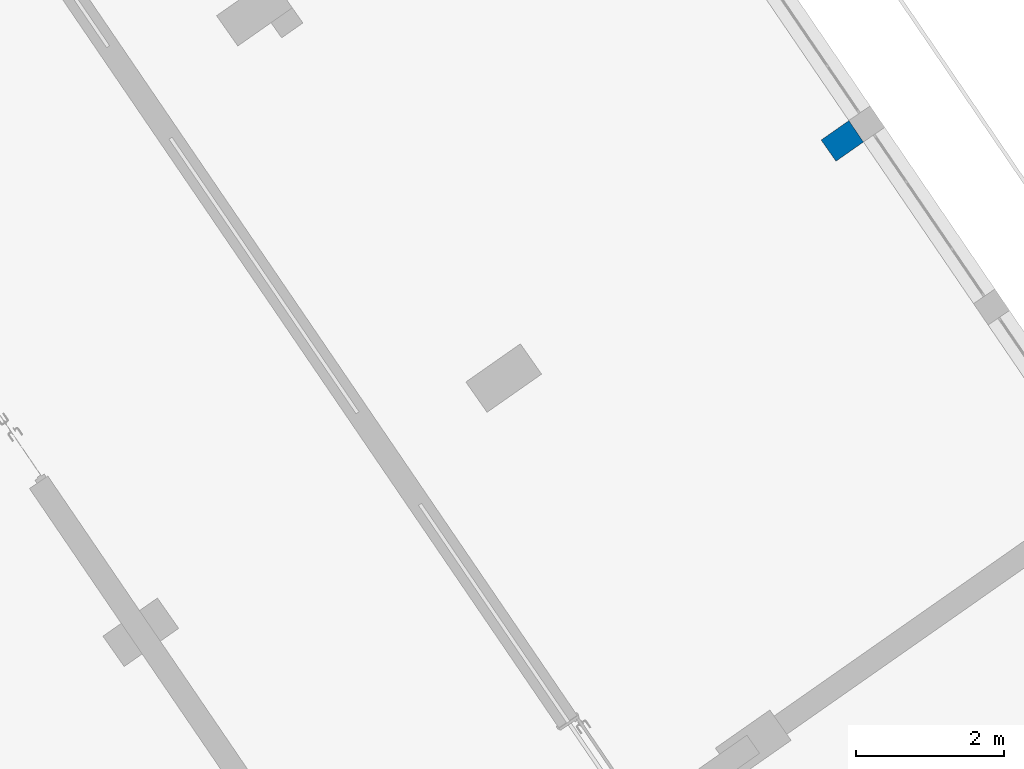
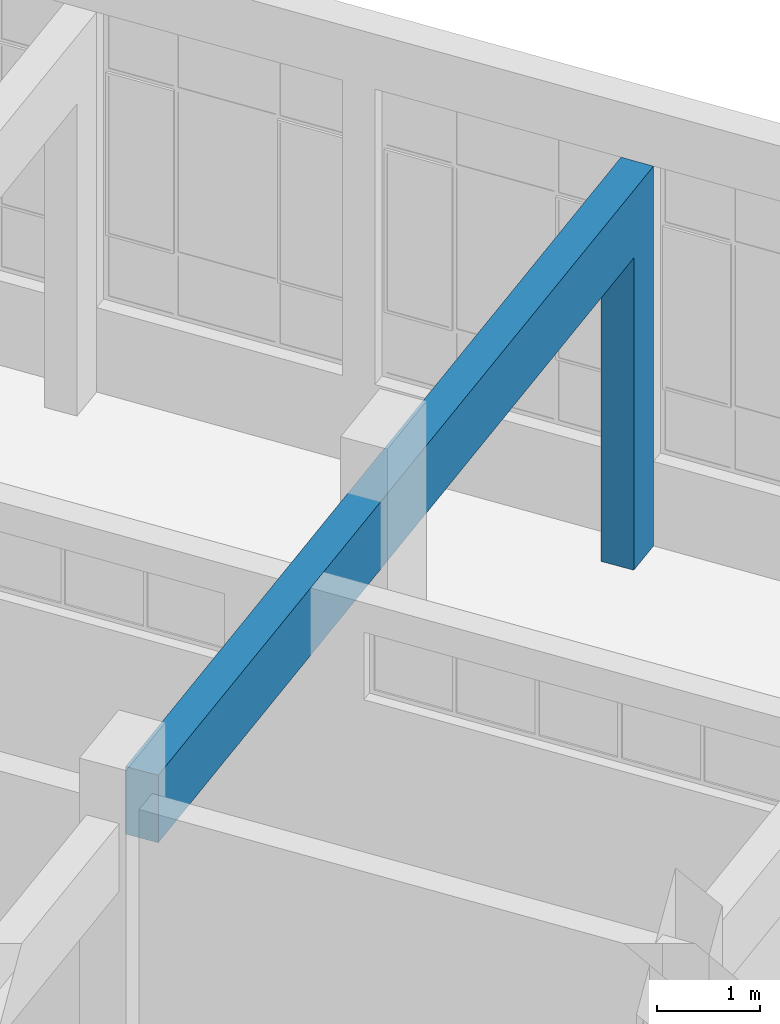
# One storey, part 147 of 157: 1 wall.
"""IFC2X3 building model written with IfcOpenShell, lengths in millimetres."""

from ifc_helpers import new_model, entity, si_unit, converted_unit, derived_unit, direction, frame, origin, place, context, subcontext, project, spatial, faceted_brep, material, layer, layer_set, type_object, element, save


model = new_model("IFC2X3")

# Units and contexts
model_context = context("Model", 3, precision=0.01, world=origin(), true_north=direction((6.123031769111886e-17, 1.0)))
body_context = subcontext(model_context, "Body", "Model", "MODEL_VIEW")
ifc_project = project(units=[si_unit("LENGTHUNIT", "METRE", prefix="MILLI"), si_unit("AREAUNIT", "SQUARE_METRE"), si_unit("VOLUMEUNIT", "CUBIC_METRE"), converted_unit("PLANEANGLEUNIT", "DEGREE", entity("IfcRatioMeasure", 0.017453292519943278), si_unit("PLANEANGLEUNIT", "RADIAN"), dimensions=[0, 0, 0, 0, 0, 0, 0]), si_unit("MASSUNIT", "GRAM", prefix="KILO"), derived_unit("MASSDENSITYUNIT", [(si_unit("MASSUNIT", "GRAM", prefix="KILO"), 1), (si_unit("LENGTHUNIT", "METRE"), -3)]), derived_unit("MOMENTOFINERTIAUNIT", [(si_unit("LENGTHUNIT", "METRE"), 4)]), si_unit("TIMEUNIT", "SECOND"), si_unit("FREQUENCYUNIT", "HERTZ"), si_unit("THERMODYNAMICTEMPERATUREUNIT", "DEGREE_CELSIUS"), derived_unit("THERMALTRANSMITTANCEUNIT", [(si_unit("MASSUNIT", "GRAM", prefix="KILO"), 1), (si_unit("THERMODYNAMICTEMPERATUREUNIT", "KELVIN"), -1), (si_unit("TIMEUNIT", "SECOND"), -3)]), derived_unit("THERMALCONDUCTANCEUNIT", [(si_unit("MASSUNIT", "GRAM", prefix="KILO"), 1), (si_unit("LENGTHUNIT", "METRE"), 1), (si_unit("THERMODYNAMICTEMPERATUREUNIT", "KELVIN"), -1), (si_unit("TIMEUNIT", "SECOND"), -3)]), derived_unit("VOLUMETRICFLOWRATEUNIT", [(si_unit("LENGTHUNIT", "METRE"), 3), (si_unit("TIMEUNIT", "SECOND"), -1)]), derived_unit("MASSFLOWRATEUNIT", [(si_unit("MASSUNIT", "GRAM", prefix="KILO"), 1), (si_unit("TIMEUNIT", "SECOND"), -1)]), derived_unit("ROTATIONALFREQUENCYUNIT", [(si_unit("TIMEUNIT", "SECOND"), -1)]), si_unit("ELECTRICCURRENTUNIT", "AMPERE"), si_unit("ELECTRICVOLTAGEUNIT", "VOLT"), si_unit("POWERUNIT", "WATT"), converted_unit("FORCEUNIT", "KIP", entity("IfcRatioMeasure", 2.088543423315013e-05), si_unit("FORCEUNIT", "NEWTON"), dimensions=[1, 1, -2, 0, 0, 0, 0]), si_unit("ILLUMINANCEUNIT", "LUX"), si_unit("LUMINOUSFLUXUNIT", "LUMEN"), si_unit("LUMINOUSINTENSITYUNIT", "CANDELA"), derived_unit("USERDEFINED", [(si_unit("MASSUNIT", "GRAM", prefix="KILO"), -1), (si_unit("LENGTHUNIT", "METRE"), -2), (si_unit("TIMEUNIT", "SECOND"), 3), (si_unit("LUMINOUSFLUXUNIT", "LUMEN"), 1)]), derived_unit("USERDEFINED", [(si_unit("MASSUNIT", "GRAM", prefix="KILO"), 1), (si_unit("LENGTHUNIT", "METRE"), 3), (si_unit("TIMEUNIT", "SECOND"), -3), (si_unit("ELECTRICCURRENTUNIT", "AMPERE"), -2)]), derived_unit("USERDEFINED", [(si_unit("LENGTHUNIT", "METRE"), 2), (si_unit("TIMEUNIT", "SECOND"), -2)]), derived_unit("SOUNDPOWERUNIT", [(si_unit("MASSUNIT", "GRAM", prefix="KILO"), 1), (si_unit("LENGTHUNIT", "METRE"), 2), (si_unit("TIMEUNIT", "SECOND"), -3)]), derived_unit("SOUNDPRESSUREUNIT", [(si_unit("MASSUNIT", "GRAM", prefix="KILO"), 1), (si_unit("LENGTHUNIT", "METRE"), -1), (si_unit("TIMEUNIT", "SECOND"), -2)]), derived_unit("LINEARVELOCITYUNIT", [(si_unit("LENGTHUNIT", "METRE"), 1), (si_unit("TIMEUNIT", "SECOND"), -1)]), si_unit("PRESSUREUNIT", "PASCAL"), derived_unit("USERDEFINED", [(si_unit("LENGTHUNIT", "METRE"), -2), (si_unit("MASSUNIT", "GRAM", prefix="KILO"), 1), (si_unit("TIMEUNIT", "SECOND"), -2)]), derived_unit("LINEARFORCEUNIT", [(si_unit("MASSUNIT", "GRAM", prefix="KILO"), 1), (si_unit("LENGTHUNIT", "METRE"), 1), (si_unit("TIMEUNIT", "SECOND"), -2), (si_unit("LENGTHUNIT", "METRE"), -1)]), derived_unit("PLANARFORCEUNIT", [(si_unit("MASSUNIT", "GRAM", prefix="KILO"), 1), (si_unit("LENGTHUNIT", "METRE"), 1), (si_unit("TIMEUNIT", "SECOND"), -2), (si_unit("LENGTHUNIT", "METRE"), -2)]), derived_unit("SPECIFICHEATCAPACITYUNIT", [(si_unit("LENGTHUNIT", "METRE"), 2), (si_unit("TIMEUNIT", "SECOND"), -2), (si_unit("THERMODYNAMICTEMPERATUREUNIT", "KELVIN"), -1)]), derived_unit("VAPORPERMEABILITYUNIT", [(si_unit("TIMEUNIT", "SECOND"), 1), (si_unit("LENGTHUNIT", "METRE"), -1)]), derived_unit("DYNAMICVISCOSITYUNIT", [(si_unit("MASSUNIT", "GRAM", prefix="KILO"), 1), (si_unit("LENGTHUNIT", "METRE"), -1), (si_unit("TIMEUNIT", "SECOND"), -1)]), derived_unit("THERMALEXPANSIONCOEFFICIENTUNIT", [(si_unit("THERMODYNAMICTEMPERATUREUNIT", "KELVIN"), -1)])], contexts=[model_context])

# Site, building, storey
site_placement = place(None, frame((0.0, 0.0, 0.0), z_axis=(0.0, 0.0, 1.0), x_axis=(0.8191520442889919, 0.5735764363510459, 0.0)))
site = spatial("IfcSite", under=ifc_project, at=site_placement, Name="Default", CompositionType="ELEMENT")
building_placement = place(site_placement, origin())
building = spatial("IfcBuilding", under=site, at=building_placement, CompositionType="ELEMENT")
storey_placement = place(building_placement, origin())
storey = spatial("IfcBuildingStorey", under=building, at=storey_placement, Name="1.EG +0.00", CompositionType="ELEMENT", Elevation=-4.331468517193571e-12)

# Wall
ifc_material = material(Name="Analytical Wall Surface_CJC")
ifc_layer = layer(ifc_material, 350.0)
ifc_layer_set = layer_set([ifc_layer], Name="Basic Wall:Wand_Innen_35")
wall_type = type_object("IfcWallType", Name="Basic Wall:Wand_Innen_35", PredefinedType="STANDARD", material=ifc_layer_set)
wall_placement = place(storey_placement, frame((-205403.01756108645, 91396.35891435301, 0.0), z_axis=(0.0, 0.0, 1.0), x_axis=(-1.0, 0.0, 0.0)))
element("IfcWall", 1, at=wall_placement, inside=storey, type_object=wall_type, Name="Basic Wall:Wand_Innen_35", ObjectType="Basic Wall:Wand_Innen_35", context=body_context, shape_type="Brep", body=[
    faceted_brep([(0.0, -175.0, 0.0), (458.15191782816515, -175.0, 0.0), (458.15191782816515, -175.0, 3700.0), (5378.638104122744, -175.0, 3700.0), (6278.638104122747, -175.0, 3700.0), (7576.564204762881, -175.0, 3700.0), (7876.588514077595, -175.0, 3700.0), (11379.13658451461, -175.0, 3700.0), (11379.13658451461, -175.0, 4500.0), (7876.588514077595, -175.0, 4500.0), (7576.564204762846, -175.0, 4500.0), (6278.638104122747, -175.0, 4500.0), (5378.638104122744, -175.0, 4500.0), (0.0, -175.0, 4500.0), (4.447289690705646, 175.0, 0.0), (4.447289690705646, 175.0, 4500.0), (5378.638104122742, 175.0, 4500.0), (6278.638104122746, 175.0, 4500.0), (7581.019921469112, 175.0, 4500.0), (7881.044230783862, 175.0, 4500.0), (11379.136584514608, 175.0, 4500.0), (11379.136584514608, 175.0, 3700.0), (7881.044230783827, 175.0, 3700.0), (7581.019921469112, 175.0, 3700.0), (6278.638104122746, 175.0, 3700.0), (5378.638104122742, 175.0, 3700.0), (458.1519178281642, 175.0, 3700.0), (458.1519178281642, 175.0, 0.0)], [[[0, 1, 2, 3, 4, 5, 6, 7, 8, 9, 10, 11, 12, 13]], [[14, 15, 16, 17, 18, 19, 20, 21, 22, 23, 24, 25, 26, 27]], [[0, 13, 15, 14]], [[8, 7, 21, 20]], [[1, 0, 14, 27]], [[7, 6, 5, 4, 3, 2, 26, 25, 24, 23, 22, 21]], [[13, 12, 11, 10, 9, 8, 20, 19, 18, 17, 16, 15]], [[2, 1, 27, 26]]]),
])

save(model, "model.ifc")
